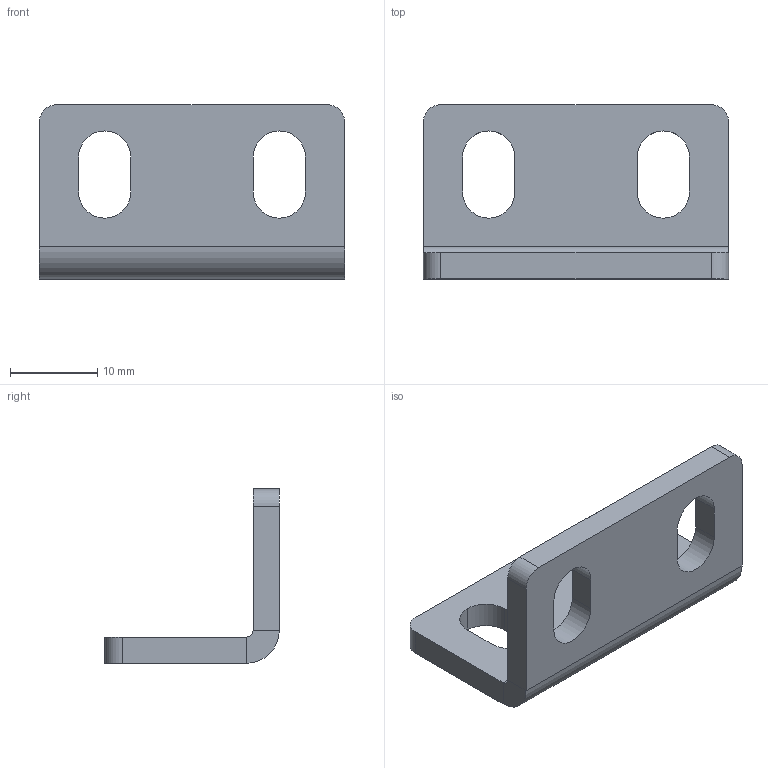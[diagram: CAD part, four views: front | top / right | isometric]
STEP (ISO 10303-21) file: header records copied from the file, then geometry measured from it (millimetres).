
FILE_DESCRIPTION (( 'STEP AP203' ), '1' );
FILE_NAME ('DSB2035-5.STEP', '2020-03-10T07:35:27', ( '' ), ( '' ), 'SwSTEP 2.0', 'SolidWorks 2017', '' );
FILE_SCHEMA (( 'CONFIG_CONTROL_DESIGN' ));
Length unit declared in the file: millimetre
Products named in the file (1): DSB2035-5
Bounding box: 35 x 20 x 20 mm (x, y, z)
Volume: 3146.6 mm3; surface area: 2835.9 mm2
Topology: 1 solids, 1 shells, 38 faces, 100 edges, 64 vertices
Faces by surface type: plane 20, cylinder 18
Entity records: 1269 total; most frequent: DIRECTION 214, CARTESIAN_POINT 203, ORIENTED_EDGE 200, EDGE_CURVE 100, AXIS2_PLACEMENT_3D 75, VERTEX_POINT 64, LINE 64, VECTOR 64
